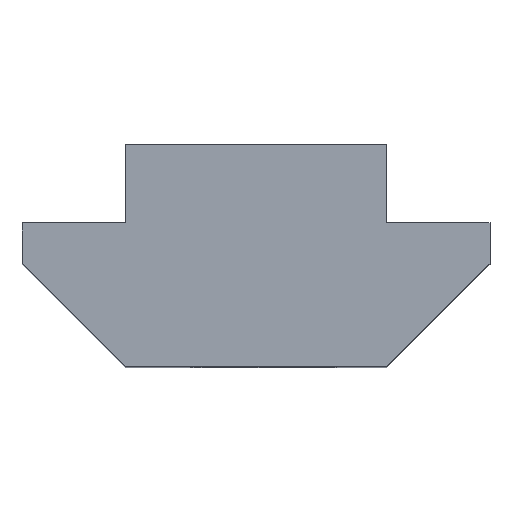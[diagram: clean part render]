
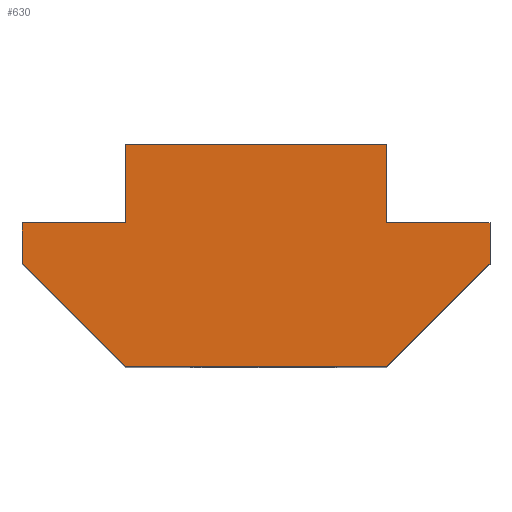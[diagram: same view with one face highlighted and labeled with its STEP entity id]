
A CAD part, top view. The second image highlights one B-rep face of the part: STEP entity #630.
In plain terms, the highlighted planar face has unit normal (0, 0, 1).
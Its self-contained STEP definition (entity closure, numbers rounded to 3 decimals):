
#27=PLANE('',#679);
#62=FACE_OUTER_BOUND('',#97,.T.);
#97=EDGE_LOOP('',(#560,#561,#562,#563,#564,#565,#566,#567,#568,#569));
#164=LINE('',#2295,#211);
#167=LINE('',#2302,#214);
#171=LINE('',#2309,#218);
#174=LINE('',#2315,#221);
#177=LINE('',#2321,#224);
#180=LINE('',#2327,#227);
#183=LINE('',#2333,#230);
#186=LINE('',#2339,#233);
#189=LINE('',#2345,#236);
#191=LINE('',#2348,#238);
#211=VECTOR('',#748,1000.);
#214=VECTOR('',#755,1000.);
#218=VECTOR('',#761,1000.);
#221=VECTOR('',#766,1000.);
#224=VECTOR('',#771,1000.);
#227=VECTOR('',#776,1000.);
#230=VECTOR('',#781,1000.);
#233=VECTOR('',#786,1000.);
#236=VECTOR('',#791,1000.);
#238=VECTOR('',#795,1000.);
#283=VERTEX_POINT('',#2292);
#284=VERTEX_POINT('',#2294);
#286=VERTEX_POINT('',#2301);
#288=VERTEX_POINT('',#2307);
#290=VERTEX_POINT('',#2313);
#292=VERTEX_POINT('',#2319);
#294=VERTEX_POINT('',#2325);
#296=VERTEX_POINT('',#2331);
#298=VERTEX_POINT('',#2337);
#300=VERTEX_POINT('',#2343);
#366=EDGE_CURVE('',#284,#283,#164,.T.);
#369=EDGE_CURVE('',#286,#284,#167,.T.);
#373=EDGE_CURVE('',#283,#288,#171,.T.);
#376=EDGE_CURVE('',#288,#290,#174,.T.);
#379=EDGE_CURVE('',#290,#292,#177,.T.);
#382=EDGE_CURVE('',#292,#294,#180,.T.);
#385=EDGE_CURVE('',#294,#296,#183,.T.);
#388=EDGE_CURVE('',#296,#298,#186,.T.);
#391=EDGE_CURVE('',#298,#300,#189,.T.);
#393=EDGE_CURVE('',#300,#286,#191,.T.);
#560=ORIENTED_EDGE('',*,*,#369,.T.);
#561=ORIENTED_EDGE('',*,*,#366,.T.);
#562=ORIENTED_EDGE('',*,*,#373,.T.);
#563=ORIENTED_EDGE('',*,*,#376,.T.);
#564=ORIENTED_EDGE('',*,*,#379,.T.);
#565=ORIENTED_EDGE('',*,*,#382,.T.);
#566=ORIENTED_EDGE('',*,*,#385,.T.);
#567=ORIENTED_EDGE('',*,*,#388,.T.);
#568=ORIENTED_EDGE('',*,*,#391,.T.);
#569=ORIENTED_EDGE('',*,*,#393,.T.);
#630=ADVANCED_FACE('',(#62),#27,.T.);
#679=AXIS2_PLACEMENT_3D('',#2349,#796,#797);
#748=DIRECTION('',(1.,0.,0.));
#755=DIRECTION('',(0.707,-0.707,0.));
#761=DIRECTION('',(0.707,0.707,0.));
#766=DIRECTION('',(0.,1.,0.));
#771=DIRECTION('',(-1.,0.,0.));
#776=DIRECTION('',(0.,1.,0.));
#781=DIRECTION('',(-1.,0.,0.));
#786=DIRECTION('',(0.,-1.,0.));
#791=DIRECTION('',(-1.,0.,0.));
#795=DIRECTION('',(0.,-1.,0.));
#796=DIRECTION('center_axis',(0.,0.,1.));
#797=DIRECTION('ref_axis',(1.,0.,0.));
#2292=CARTESIAN_POINT('',(5.,0.,9.));
#2294=CARTESIAN_POINT('',(-5.,0.,9.));
#2295=CARTESIAN_POINT('',(-5.,0.,9.));
#2301=CARTESIAN_POINT('',(-8.95,3.95,9.));
#2302=CARTESIAN_POINT('',(-8.95,3.95,9.));
#2307=CARTESIAN_POINT('',(8.95,3.95,9.));
#2309=CARTESIAN_POINT('',(5.,0.,9.));
#2313=CARTESIAN_POINT('',(8.95,5.5,9.));
#2315=CARTESIAN_POINT('',(8.95,3.95,9.));
#2319=CARTESIAN_POINT('',(5.,5.5,9.));
#2321=CARTESIAN_POINT('',(8.95,5.5,9.));
#2325=CARTESIAN_POINT('',(5.,8.5,9.));
#2327=CARTESIAN_POINT('',(5.,5.5,9.));
#2331=CARTESIAN_POINT('',(-5.,8.5,9.));
#2333=CARTESIAN_POINT('',(5.,8.5,9.));
#2337=CARTESIAN_POINT('',(-5.,5.5,9.));
#2339=CARTESIAN_POINT('',(-5.,8.5,9.));
#2343=CARTESIAN_POINT('',(-8.95,5.5,9.));
#2345=CARTESIAN_POINT('',(-5.,5.5,9.));
#2348=CARTESIAN_POINT('',(-8.95,5.5,9.));
#2349=CARTESIAN_POINT('Origin',(0.,0.,9.));
